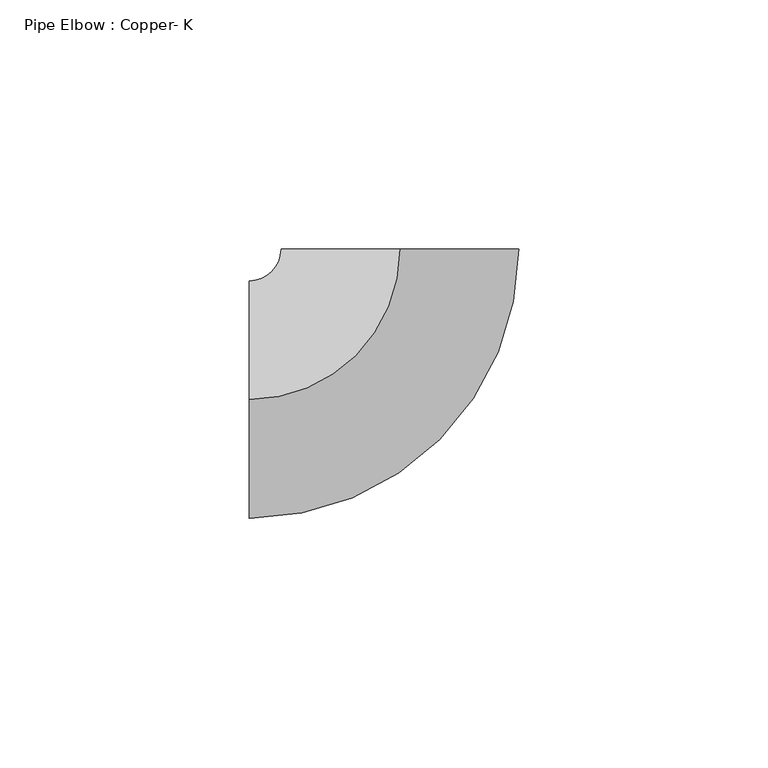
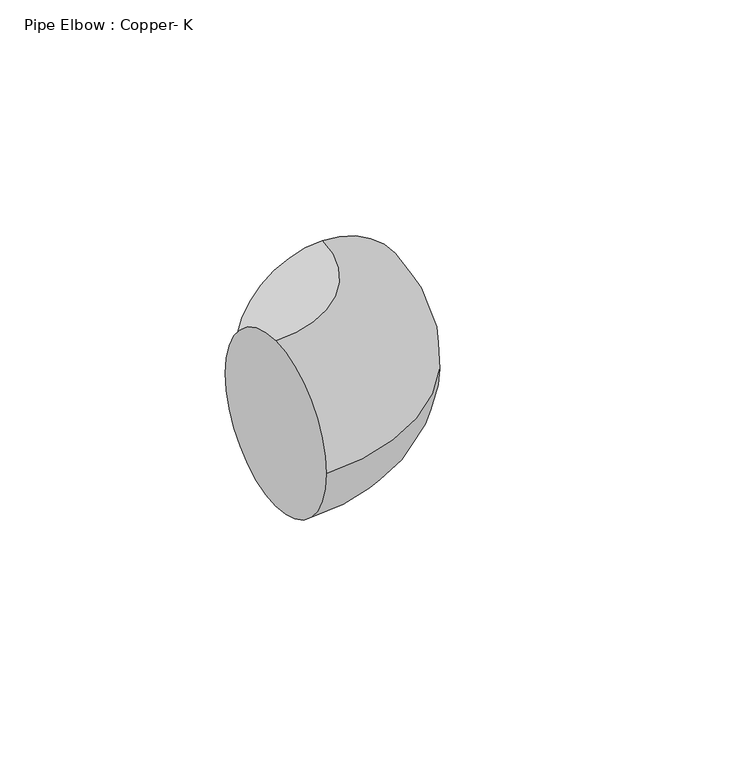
"""IFC4 building model written with IfcOpenShell, lengths in millimetres: pipe fitting geometry, Pipe Elbow : Copper- K."""

from ifc_helpers import new_model, si_unit, point, frame, origin, place, context, project, spatial, circle_curve, ellipse_curve, trimmed, source, transform, mapped, element, save
from ifc_brep_helpers import plane_surface, revolved_surface, advanced_brep


def pipe_elbow_copper_k_50f79be6(model_context):
    return source(origin(), model_context, "Body", "AdvancedBrep", [
        advanced_brep(
        [(-30.1622147, 0.0, 23.8125), (-30.1622147, 23.8125, 0.0), (-30.1622147, 0.0, -23.8125), (-30.1622147, -23.8125, 0.0), (0.0002853, 30.1622147, 23.8125), (23.8127853, 30.1619895, 0.0), (0.0002853, 30.1622147, -23.8125), (-23.8122147, 30.1624399, 0.0)],
        [
            (0, 1, circle_curve(frame((-30.1622147, 0.0, 0.0), z_axis=(-1.0, 0.0, 0.0), x_axis=(0.0, 1.0, 0.0)), 23.8125)),
            (1, 2, circle_curve(frame((-30.1622147, 0.0, 0.0), z_axis=(-1.0, 0.0, 0.0), x_axis=(0.0, 1.0, 0.0)), 23.8125)),
            (2, 3, circle_curve(frame((-30.1622147, 0.0, 0.0), z_axis=(-1.0, 0.0, 0.0), x_axis=(0.0, 1.0, 0.0)), 23.8125)),
            (3, 0, circle_curve(frame((-30.1622147, 0.0, 0.0), z_axis=(-1.0, 0.0, 0.0), x_axis=(0.0, 1.0, 0.0)), 23.8125)),
            (4, 5, circle_curve(frame((0.0002853, 30.1622147, 0.0), z_axis=(9.457328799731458e-06, 0.9999999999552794, 0.0), x_axis=(-0.9999999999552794, 9.457328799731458e-06, 0.0)), 23.8125)),
            (5, 6, circle_curve(frame((0.0002853, 30.1622147, 0.0), z_axis=(9.457328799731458e-06, 0.9999999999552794, 0.0), x_axis=(-0.9999999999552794, 9.457328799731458e-06, 0.0)), 23.8125)),
            (6, 7, circle_curve(frame((0.0002853, 30.1622147, 0.0), z_axis=(9.457328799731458e-06, 0.9999999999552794, 0.0), x_axis=(-0.9999999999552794, 9.457328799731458e-06, 0.0)), 23.8125)),
            (7, 4, circle_curve(frame((0.0002853, 30.1622147, 0.0), z_axis=(9.457328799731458e-06, 0.9999999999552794, 0.0), x_axis=(-0.9999999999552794, 9.457328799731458e-06, 0.0)), 23.8125)),
            (7, 1, circle_curve(frame((-30.1622147, 30.1625, 0.0), z_axis=(0.0, 0.0, -1.0), x_axis=(0.0, -1.0, 0.0)), 6.35)),
            (0, 4, circle_curve(frame((-30.1622147, 30.1625, 23.8125), z_axis=(0.0, 0.0, 1.0), x_axis=(0.0, -1.0, 0.0)), 30.1625)),
            (6, 2, circle_curve(frame((-30.1622147, 30.1625, -23.8125), z_axis=(0.0, 0.0, -1.0), x_axis=(0.0, -1.0, 0.0)), 30.1625)),
            (5, 3, circle_curve(frame((-30.1622147, 30.1625, 0.0), z_axis=(0.0, 0.0, -1.0), x_axis=(0.0, -1.0, 0.0)), 53.975)),
        ],
        [
            plane_surface(frame((-30.1622147, 0.0, 0.0), z_axis=(-1.0, 0.0, 0.0), x_axis=(0.0, 0.0, 1.0))),
            plane_surface(frame((0.0002853, 30.1622147, 0.0), z_axis=(9.45732879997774e-06, 0.9999999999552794, 0.0), x_axis=(0.0, 0.0, 1.0))),
            revolved_surface(trimmed(ellipse_curve(frame((-30.1622147, 0.0, 0.0), z_axis=(-1.0, 0.0, 0.0), x_axis=(0.0, 1.0, 0.0)), 23.8125, 23.8125), [point((-30.1622147, 0.0, 23.8125))], [point((-30.1622147, 23.8125, 0.0))], True, "CARTESIAN"), (-30.1622147, 30.1625, 0.0), (0.0, 0.0, 1.0)),
            revolved_surface(trimmed(ellipse_curve(frame((-30.1622147, 0.0, 0.0), z_axis=(-1.0, 0.0, 0.0), x_axis=(0.0, 1.0, 0.0)), 23.8125, 23.8125), [point((-30.1622147, 23.8125, 0.0))], [point((-30.1622147, 0.0, -23.8125))], True, "CARTESIAN"), (-30.1622147, 30.1625, 0.0), (0.0, 0.0, 1.0)),
            revolved_surface(trimmed(ellipse_curve(frame((-30.1622147, 0.0, 0.0), z_axis=(-1.0, 0.0, 0.0), x_axis=(0.0, 1.0, 0.0)), 23.8125, 23.8125), [point((-30.1622147, 0.0, -23.8125))], [point((-30.1622147, -23.8125, 0.0))], True, "CARTESIAN"), (-30.1622147, 30.1625, 0.0), (0.0, 0.0, 1.0)),
            revolved_surface(trimmed(ellipse_curve(frame((-30.1622147, 0.0, 0.0), z_axis=(-1.0, 0.0, 0.0), x_axis=(0.0, 1.0, 0.0)), 23.8125, 23.8125), [point((-30.1622147, -23.8125, 0.0))], [point((-30.1622147, 0.0, 23.8125))], True, "CARTESIAN"), (-30.1622147, 30.1625, 0.0), (0.0, 0.0, 1.0)),
        ],
        [
            (0, [[1, 2, 3, 4]]),
            (1, [[5, 6, 7, 8]]),
            (2, [[9, -1, 10, -8]]),
            (3, [[11, -2, -9, -7]]),
            (4, [[12, -3, -11, -6]]),
            (5, [[-10, -4, -12, -5]]),
        ],
    ),
        advanced_brep(
        [(-30.1622147, 0.0, 23.8125), (-30.1622147, 23.8125, 0.0), (-30.1622147, 0.0, -23.8125), (-30.1622147, -23.8125, 0.0), (0.0002853, 30.1622147, 23.8125), (23.8127853, 30.1619895, 0.0), (0.0002853, 30.1622147, -23.8125), (-23.8122147, 30.1624399, 0.0)],
        [
            (0, 1, circle_curve(frame((-30.1622147, 0.0, 0.0), z_axis=(-1.0, 0.0, 0.0), x_axis=(0.0, 1.0, 0.0)), 23.8125)),
            (1, 2, circle_curve(frame((-30.1622147, 0.0, 0.0), z_axis=(-1.0, 0.0, 0.0), x_axis=(0.0, 1.0, 0.0)), 23.8125)),
            (2, 3, circle_curve(frame((-30.1622147, 0.0, 0.0), z_axis=(-1.0, 0.0, 0.0), x_axis=(0.0, 1.0, 0.0)), 23.8125)),
            (3, 0, circle_curve(frame((-30.1622147, 0.0, 0.0), z_axis=(-1.0, 0.0, 0.0), x_axis=(0.0, 1.0, 0.0)), 23.8125)),
            (4, 5, circle_curve(frame((0.0002853, 30.1622147, 0.0), z_axis=(9.457328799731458e-06, 0.9999999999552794, 0.0), x_axis=(-0.9999999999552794, 9.457328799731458e-06, 0.0)), 23.8125)),
            (5, 6, circle_curve(frame((0.0002853, 30.1622147, 0.0), z_axis=(9.457328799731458e-06, 0.9999999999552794, 0.0), x_axis=(-0.9999999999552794, 9.457328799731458e-06, 0.0)), 23.8125)),
            (6, 7, circle_curve(frame((0.0002853, 30.1622147, 0.0), z_axis=(9.457328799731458e-06, 0.9999999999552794, 0.0), x_axis=(-0.9999999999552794, 9.457328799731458e-06, 0.0)), 23.8125)),
            (7, 4, circle_curve(frame((0.0002853, 30.1622147, 0.0), z_axis=(9.457328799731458e-06, 0.9999999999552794, 0.0), x_axis=(-0.9999999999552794, 9.457328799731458e-06, 0.0)), 23.8125)),
            (7, 1, circle_curve(frame((-30.1622147, 30.1625, 0.0), z_axis=(0.0, 0.0, -1.0), x_axis=(0.0, -1.0, 0.0)), 6.35)),
            (0, 4, circle_curve(frame((-30.1622147, 30.1625, 23.8125), z_axis=(0.0, 0.0, 1.0), x_axis=(0.0, -1.0, 0.0)), 30.1625)),
            (6, 2, circle_curve(frame((-30.1622147, 30.1625, -23.8125), z_axis=(0.0, 0.0, -1.0), x_axis=(0.0, -1.0, 0.0)), 30.1625)),
            (5, 3, circle_curve(frame((-30.1622147, 30.1625, 0.0), z_axis=(0.0, 0.0, -1.0), x_axis=(0.0, -1.0, 0.0)), 53.975)),
        ],
        [
            plane_surface(frame((-30.1622147, 0.0, 0.0), z_axis=(-1.0, 0.0, 0.0), x_axis=(0.0, 0.0, 1.0))),
            plane_surface(frame((0.0002853, 30.1622147, 0.0), z_axis=(9.45732879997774e-06, 0.9999999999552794, 0.0), x_axis=(0.0, 0.0, 1.0))),
            revolved_surface(trimmed(ellipse_curve(frame((-30.1622147, 0.0, 0.0), z_axis=(-1.0, 0.0, 0.0), x_axis=(0.0, 1.0, 0.0)), 23.8125, 23.8125), [point((-30.1622147, 0.0, 23.8125))], [point((-30.1622147, 23.8125, 0.0))], True, "CARTESIAN"), (-30.1622147, 30.1625, 0.0), (0.0, 0.0, 1.0)),
            revolved_surface(trimmed(ellipse_curve(frame((-30.1622147, 0.0, 0.0), z_axis=(-1.0, 0.0, 0.0), x_axis=(0.0, 1.0, 0.0)), 23.8125, 23.8125), [point((-30.1622147, 23.8125, 0.0))], [point((-30.1622147, 0.0, -23.8125))], True, "CARTESIAN"), (-30.1622147, 30.1625, 0.0), (0.0, 0.0, 1.0)),
            revolved_surface(trimmed(ellipse_curve(frame((-30.1622147, 0.0, 0.0), z_axis=(-1.0, 0.0, 0.0), x_axis=(0.0, 1.0, 0.0)), 23.8125, 23.8125), [point((-30.1622147, 0.0, -23.8125))], [point((-30.1622147, -23.8125, 0.0))], True, "CARTESIAN"), (-30.1622147, 30.1625, 0.0), (0.0, 0.0, 1.0)),
            revolved_surface(trimmed(ellipse_curve(frame((-30.1622147, 0.0, 0.0), z_axis=(-1.0, 0.0, 0.0), x_axis=(0.0, 1.0, 0.0)), 23.8125, 23.8125), [point((-30.1622147, -23.8125, 0.0))], [point((-30.1622147, 0.0, 23.8125))], True, "CARTESIAN"), (-30.1622147, 30.1625, 0.0), (0.0, 0.0, 1.0)),
        ],
        [
            (0, [[1, 2, 3, 4]]),
            (1, [[5, 6, 7, 8]]),
            (2, [[9, -1, 10, -8]]),
            (3, [[11, -2, -9, -7]]),
            (4, [[12, -3, -11, -6]]),
            (5, [[-10, -4, -12, -5]]),
        ],
    ),
    ])


if __name__ == "__main__":
    model = new_model("IFC4")
    model_context = context("Model", 3, world=origin())
    ifc_project = project(units=[si_unit("LENGTHUNIT", "METRE", prefix="MILLI")], contexts=[model_context])
    site = spatial("IfcSite", under=ifc_project)
    building = spatial("IfcBuilding", under=site)
    placement = place(None, origin())
    pipe_elbow_copper_k_shape = pipe_elbow_copper_k_50f79be6(model_context)
    element("IfcPipeFitting", 1, ObjectType="Pipe Elbow : Copper- K", at=placement, inside=building, context=model_context, shape_type="MappedRepresentation", body=[
        mapped(pipe_elbow_copper_k_shape, transform((0.0, 0.0, 0.0), x_axis=(1.0, 0.0, 0.0), y_axis=(0.0, 1.0, 0.0), z_axis=(0.0, 0.0, 1.0))),
    ])
    save(model, "model.ifc")
